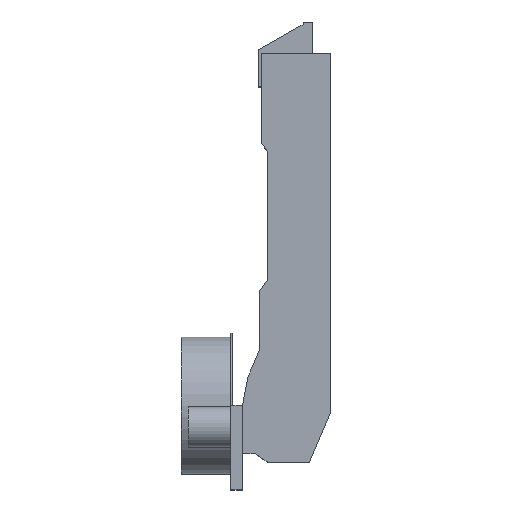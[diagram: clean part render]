
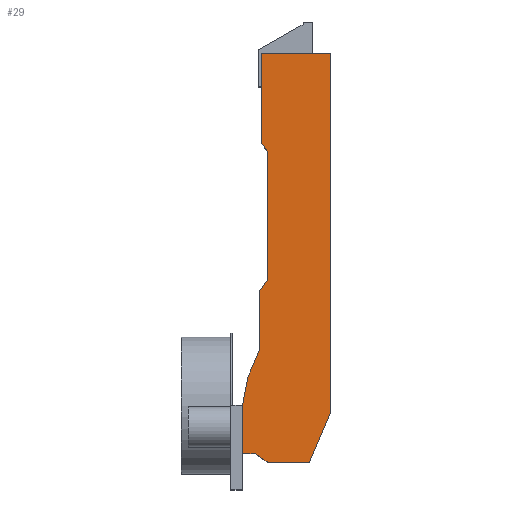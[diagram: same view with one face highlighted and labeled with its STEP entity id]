
A CAD part, top view. The second image highlights one B-rep face of the part: STEP entity #29.
In plain terms, the highlighted planar face has unit normal (0, 0, 1).
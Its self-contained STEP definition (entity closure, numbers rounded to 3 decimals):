
#29 = ADVANCED_FACE ( 'NONE', ( #1255 ), #1608, .T. ) ;
#68 = VERTEX_POINT ( 'NONE', #1470 ) ;
#69 = VERTEX_POINT ( 'NONE', #1487 ) ;
#85 = VERTEX_POINT ( 'NONE', #475 ) ;
#91 = VERTEX_POINT ( 'NONE', #534 ) ;
#93 = VERTEX_POINT ( 'NONE', #527 ) ;
#95 = VERTEX_POINT ( 'NONE', #536 ) ;
#96 = VERTEX_POINT ( 'NONE', #535 ) ;
#98 = VERTEX_POINT ( 'NONE', #516 ) ;
#101 = VERTEX_POINT ( 'NONE', #515 ) ;
#103 = VERTEX_POINT ( 'NONE', #437 ) ;
#107 = VERTEX_POINT ( 'NONE', #455 ) ;
#117 = VERTEX_POINT ( 'NONE', #478 ) ;
#151 = DIRECTION ( 'NONE',  ( -0.574, -0.819, 0. ) ) ;
#152 = CARTESIAN_POINT ( 'NONE',  ( 4.01, 29.266, 8.5 ) ) ;
#174 = CARTESIAN_POINT ( 'NONE',  ( -0.3, 0., 8.5 ) ) ;
#175 = DIRECTION ( 'NONE',  ( -0.19, -0.982, 0. ) ) ;
#259 = CARTESIAN_POINT ( 'NONE',  ( 6., 65.1, 8.5 ) ) ;
#261 = CARTESIAN_POINT ( 'NONE',  ( 4.5, 67.242, 8.5 ) ) ;
#262 = DIRECTION ( 'NONE',  ( 0.574, -0.819, 0. ) ) ;
#270 = DIRECTION ( 'NONE',  ( 0., -1., 0. ) ) ;
#271 = CARTESIAN_POINT ( 'NONE',  ( 6., 32.108, 8.5 ) ) ;
#272 = DIRECTION ( 'NONE',  ( 0., -1., 0. ) ) ;
#282 = CARTESIAN_POINT ( 'NONE',  ( 4.01, 14.096, 8.5 ) ) ;
#288 = DIRECTION ( 'NONE',  ( 0., -1., 0. ) ) ;
#300 = CARTESIAN_POINT ( 'NONE',  ( 1.11, 7.296, 8.5 ) ) ;
#301 = DIRECTION ( 'NONE',  ( -0.392, -0.92, 0. ) ) ;
#339 = ORIENTED_EDGE ( 'NONE', *, *, #958, .T. ) ;
#340 = ORIENTED_EDGE ( 'NONE', *, *, #1037, .T. ) ;
#341 = ORIENTED_EDGE ( 'NONE', *, *, #951, .T. ) ;
#409 = ORIENTED_EDGE ( 'NONE', *, *, #946, .T. ) ;
#410 = DIRECTION ( 'NONE',  ( 0., 1., 0. ) ) ;
#420 = CARTESIAN_POINT ( 'NONE',  ( 22.25, -1.744, 8.5 ) ) ;
#423 = CARTESIAN_POINT ( 'NONE',  ( 22.25, 90.1, 8.5 ) ) ;
#434 = DIRECTION ( 'NONE',  ( -1., 0., 0. ) ) ;
#437 = CARTESIAN_POINT ( 'NONE',  ( 1.11, 7.296, 8.5 ) ) ;
#447 = DIRECTION ( 'NONE',  ( 0.819, -0.574, 0. ) ) ;
#448 = CARTESIAN_POINT ( 'NONE',  ( 3.01, -12.294, 8.5 ) ) ;
#455 = CARTESIAN_POINT ( 'NONE',  ( -0.3, 0., 8.5 ) ) ;
#459 = DIRECTION ( 'NONE',  ( 0.392, 0.92, 0. ) ) ;
#460 = CARTESIAN_POINT ( 'NONE',  ( 16.783, -14.594, 8.5 ) ) ;
#475 = CARTESIAN_POINT ( 'NONE',  ( 4.5, 67.242, 8.5 ) ) ;
#478 = CARTESIAN_POINT ( 'NONE',  ( 4.01, 14.096, 8.5 ) ) ;
#515 = CARTESIAN_POINT ( 'NONE',  ( 6.295, -14.594, 8.5 ) ) ;
#516 = CARTESIAN_POINT ( 'NONE',  ( 4.5, 90.1, 8.5 ) ) ;
#527 = CARTESIAN_POINT ( 'NONE',  ( 4.01, 29.266, 8.5 ) ) ;
#534 = CARTESIAN_POINT ( 'NONE',  ( 22.25, -1.744, 8.5 ) ) ;
#535 = CARTESIAN_POINT ( 'NONE',  ( 6., 65.1, 8.5 ) ) ;
#536 = CARTESIAN_POINT ( 'NONE',  ( 16.783, -14.594, 8.5 ) ) ;
#540 = DIRECTION ( 'NONE',  ( 1., 0., 0. ) ) ;
#553 = CARTESIAN_POINT ( 'NONE',  ( -0.3, -12.294, 8.5 ) ) ;
#561 = VECTOR ( 'NONE', #301, 1000. ) ;
#564 = VECTOR ( 'NONE', #288, 1000. ) ;
#565 = LINE ( 'NONE', #300, #561 ) ;
#635 = VECTOR ( 'NONE', #151, 1000. ) ;
#637 = LINE ( 'NONE', #152, #635 ) ;
#643 = LINE ( 'NONE', #174, #644 ) ;
#644 = VECTOR ( 'NONE', #175, 1000. ) ;
#702 = LINE ( 'NONE', #872, #706 ) ;
#706 = VECTOR ( 'NONE', #874, 1000. ) ;
#721 = LINE ( 'NONE', #882, #722 ) ;
#722 = VECTOR ( 'NONE', #884, 1000. ) ;
#730 = ORIENTED_EDGE ( 'NONE', *, *, #950, .T. ) ;
#863 = CARTESIAN_POINT ( 'NONE',  ( 3.01, -12.294, 8.5 ) ) ;
#868 = CARTESIAN_POINT ( 'NONE',  ( 22.25, 90.1, 8.5 ) ) ;
#872 = CARTESIAN_POINT ( 'NONE',  ( 6.295, -14.594, 8.5 ) ) ;
#874 = DIRECTION ( 'NONE',  ( 1., 0., 0. ) ) ;
#882 = CARTESIAN_POINT ( 'NONE',  ( -0.3, 0., 8.5 ) ) ;
#884 = DIRECTION ( 'NONE',  ( 0., -1., 0. ) ) ;
#904 = EDGE_CURVE ( 'NONE', #69, #1701, #1316, .T. ) ;
#919 = EDGE_CURVE ( 'NONE', #1703, #98, #1339, .T. ) ;
#923 = EDGE_CURVE ( 'NONE', #1701, #101, #1344, .T. ) ;
#928 = EDGE_CURVE ( 'NONE', #95, #91, #1357, .T. ) ;
#940 = EDGE_CURVE ( 'NONE', #91, #1703, #1377, .T. ) ;
#946 = EDGE_CURVE ( 'NONE', #85, #96, #1381, .T. ) ;
#950 = EDGE_CURVE ( 'NONE', #98, #85, #1390, .T. ) ;
#951 = EDGE_CURVE ( 'NONE', #96, #68, #1403, .T. ) ;
#958 = EDGE_CURVE ( 'NONE', #93, #117, #1395, .T. ) ;
#965 = EDGE_CURVE ( 'NONE', #117, #103, #565, .T. ) ;
#1033 = EDGE_CURVE ( 'NONE', #103, #107, #643, .T. ) ;
#1037 = EDGE_CURVE ( 'NONE', #68, #93, #637, .T. ) ;
#1054 = ORIENTED_EDGE ( 'NONE', *, *, #919, .T. ) ;
#1055 = ORIENTED_EDGE ( 'NONE', *, *, #940, .T. ) ;
#1057 = ORIENTED_EDGE ( 'NONE', *, *, #928, .T. ) ;
#1058 = ORIENTED_EDGE ( 'NONE', *, *, #1452, .T. ) ;
#1059 = ORIENTED_EDGE ( 'NONE', *, *, #923, .T. ) ;
#1060 = ORIENTED_EDGE ( 'NONE', *, *, #904, .T. ) ;
#1061 = ORIENTED_EDGE ( 'NONE', *, *, #1460, .T. ) ;
#1188 = EDGE_LOOP ( 'NONE', ( #1061, #1060, #1059, #1058, #1057, #1055, #1054, #730, #409, #341, #340, #339, #1715, #1713 ) ) ;
#1255 = FACE_OUTER_BOUND ( 'NONE', #1188, .T. ) ;
#1316 = LINE ( 'NONE', #553, #1322 ) ;
#1322 = VECTOR ( 'NONE', #540, 1000. ) ;
#1339 = LINE ( 'NONE', #423, #1341 ) ;
#1341 = VECTOR ( 'NONE', #434, 1000. ) ;
#1342 = VECTOR ( 'NONE', #447, 1000. ) ;
#1344 = LINE ( 'NONE', #448, #1342 ) ;
#1357 = LINE ( 'NONE', #460, #1358 ) ;
#1358 = VECTOR ( 'NONE', #459, 1000. ) ;
#1377 = LINE ( 'NONE', #420, #1384 ) ;
#1381 = LINE ( 'NONE', #259, #1394 ) ;
#1384 = VECTOR ( 'NONE', #410, 1000. ) ;
#1390 = LINE ( 'NONE', #261, #1401 ) ;
#1394 = VECTOR ( 'NONE', #262, 1000. ) ;
#1395 = LINE ( 'NONE', #282, #564 ) ;
#1401 = VECTOR ( 'NONE', #270, 1000. ) ;
#1403 = LINE ( 'NONE', #271, #1404 ) ;
#1404 = VECTOR ( 'NONE', #272, 1000. ) ;
#1434 = AXIS2_PLACEMENT_3D ( 'NONE', #1605, #1593, #1592 ) ;
#1452 = EDGE_CURVE ( 'NONE', #101, #95, #702, .T. ) ;
#1460 = EDGE_CURVE ( 'NONE', #107, #69, #721, .T. ) ;
#1470 = CARTESIAN_POINT ( 'NONE',  ( 6., 32.108, 8.5 ) ) ;
#1487 = CARTESIAN_POINT ( 'NONE',  ( -0.3, -12.294, 8.5 ) ) ;
#1592 = DIRECTION ( 'NONE',  ( 0., -1., 0. ) ) ;
#1593 = DIRECTION ( 'NONE',  ( 0., 0., 1. ) ) ;
#1605 = CARTESIAN_POINT ( 'NONE',  ( -0.3, -12.294, 8.5 ) ) ;
#1608 = PLANE ( 'NONE',  #1434 ) ;
#1701 = VERTEX_POINT ( 'NONE', #863 ) ;
#1703 = VERTEX_POINT ( 'NONE', #868 ) ;
#1713 = ORIENTED_EDGE ( 'NONE', *, *, #1033, .T. ) ;
#1715 = ORIENTED_EDGE ( 'NONE', *, *, #965, .T. ) ;
